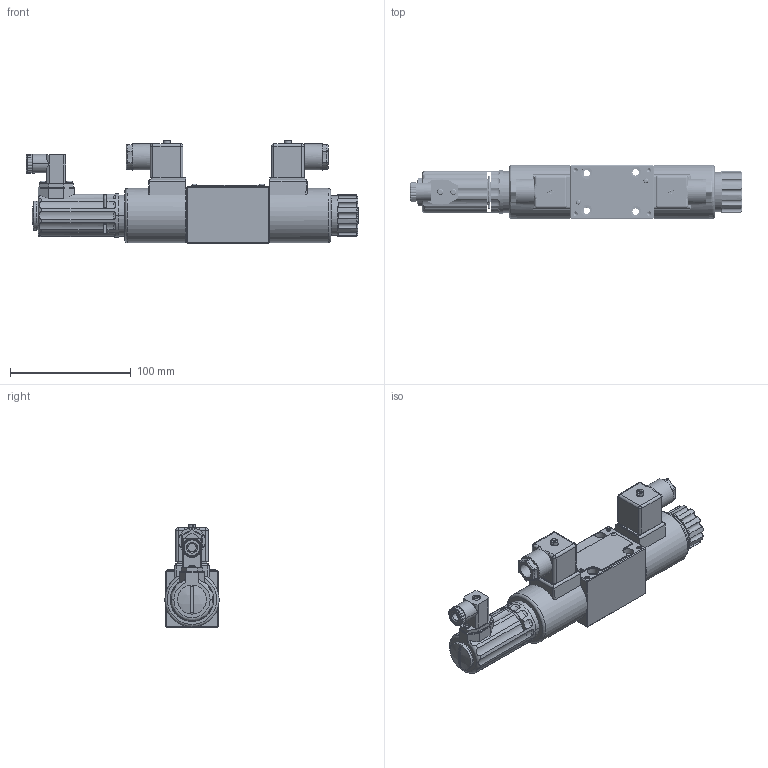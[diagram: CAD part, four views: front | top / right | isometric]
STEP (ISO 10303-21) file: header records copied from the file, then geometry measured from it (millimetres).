
FILE_DESCRIPTION(/* description */ (''),/* implementation_level */ '2;1');
FILE_NAME(/* name */ '4WRE6-2XJ比例换向阀.prt.stp',/* time_stamp */ '2022-03-30T18:35:35+08:00',/* author */ (''),/* organization */ (''),/* preprocessor_version */ 'ST-DEVELOPER v16.7',/* originating_system */ 'SIEMENS PLM Software NX 12.0',/* authorisation */ '');
FILE_SCHEMA (('AUTOMOTIVE_DESIGN { 1 0 10303 214 3 1 1 1 }'));
Length unit declared in the file: millimetre
Products named in the file (1): 4WRE6-2XJ比例换向阀
Bounding box: 275.2 x 45 x 85.89 mm (x, y, z)
Volume: 193121.9 mm3; surface area: 127077.9 mm2
Topology: 31 solids, 34 shells, 1213 faces, 3053 edges, 1918 vertices
Faces by surface type: cylinder 510, plane 447, bspline 86, torus 84, cone 55, sphere 31
Full cylindrical faces by diameter (mm): 1.5 x2, 1.8 x4, 2 x8, 2.5 x2, 2.55 x38, 3 x78, 3.2 x59, 3.5 x2, 4 x2, 5.3 x4, 5.5 x2, 6 x12, 6.5 x2, 8.1 x2, 8.7 x2, 9.4 x4, 11 x2, 12.085 x2, 12.2 x7, 14.3 x2, 14.999 x1, 16 x1, 16.999 x1, 17.4 x2, 17.8 x1, 18 x2, 18.376 x3, 20 x1, 21 x2, 22 x3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
Entity records: 88180 total; most frequent: CARTESIAN_POINT 64651, DIRECTION 4745, ORIENTED_EDGE 4556, EDGE_CURVE 2278, AXIS2_PLACEMENT_3D 1861, VERTEX_POINT 1514, EDGE_LOOP 1254, ADVANCED_FACE 1030
